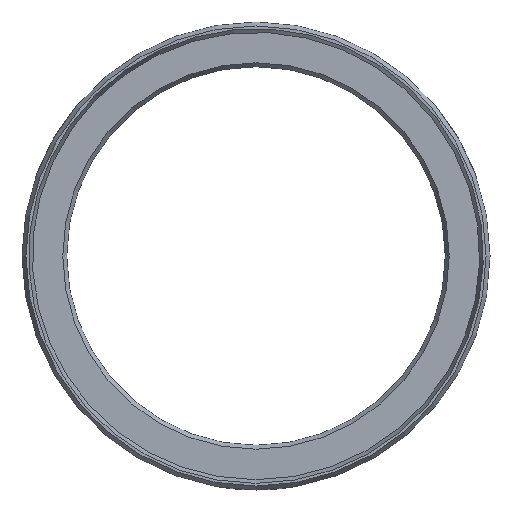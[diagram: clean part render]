
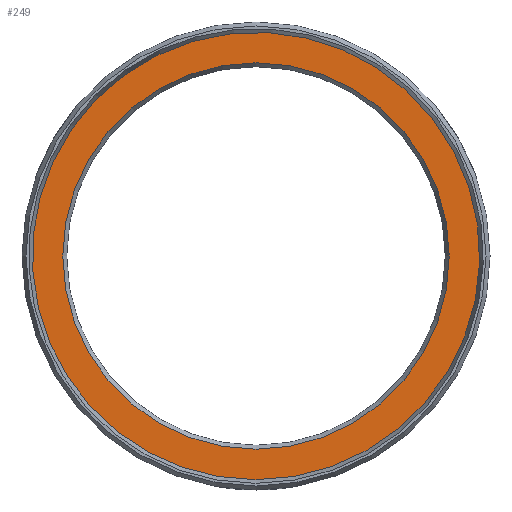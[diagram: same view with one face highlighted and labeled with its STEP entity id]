
A CAD part, left-side view. The second image highlights one B-rep face of the part: STEP entity #249.
In plain terms, the highlighted planar face has unit normal (-1, 0, 0).
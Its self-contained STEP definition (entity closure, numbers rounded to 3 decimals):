
#106=PLANE('',#985);
#249=ADVANCED_FACE('',(#309,#310),#106,.T.);
#309=FACE_BOUND('',#364,.T.);
#310=FACE_BOUND('',#365,.T.);
#364=EDGE_LOOP('',(#571));
#365=EDGE_LOOP('',(#572));
#571=ORIENTED_EDGE('',*,*,#816,.T.);
#572=ORIENTED_EDGE('',*,*,#815,.F.);
#701=VERTEX_POINT('',#1611);
#702=VERTEX_POINT('',#1614);
#815=EDGE_CURVE('',#701,#701,#881,.T.);
#816=EDGE_CURVE('',#702,#702,#882,.T.);
#881=CIRCLE('',#982,32.5);
#882=CIRCLE('',#984,28.077);
#982=AXIS2_PLACEMENT_3D('',#1610,#1195,#1196);
#984=AXIS2_PLACEMENT_3D('',#1613,#1199,#1200);
#985=AXIS2_PLACEMENT_3D('',#1615,#1201,#1202);
#1195=DIRECTION('',(1.,0.,0.));
#1196=DIRECTION('',(0.,0.,-1.));
#1199=DIRECTION('',(1.,0.,0.));
#1200=DIRECTION('',(0.,0.,1.));
#1201=DIRECTION('',(-1.,0.,0.));
#1202=DIRECTION('',(0.,0.,1.));
#1610=CARTESIAN_POINT('',(0.,0.,0.));
#1611=CARTESIAN_POINT('',(0.,0.,-32.5));
#1613=CARTESIAN_POINT('',(0.,0.,0.));
#1614=CARTESIAN_POINT('',(0.,0.,28.077));
#1615=CARTESIAN_POINT('',(0.,32.5,0.));
